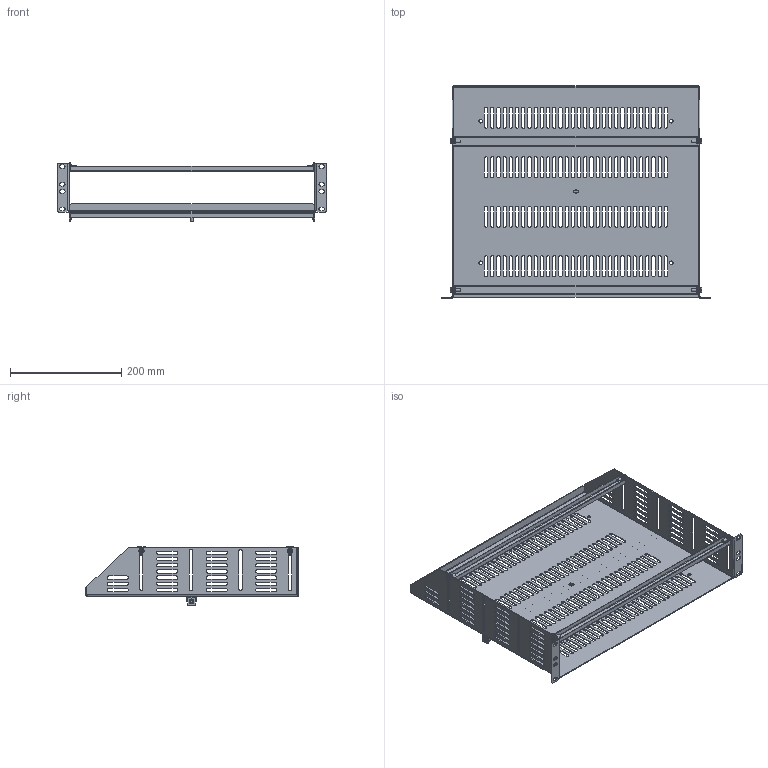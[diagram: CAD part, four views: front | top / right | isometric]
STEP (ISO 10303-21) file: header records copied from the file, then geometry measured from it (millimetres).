
FILE_DESCRIPTION( ( 'Unknown' ), '1' );
FILE_NAME( 'Q:/ACCESSORIES/SHELVES/RACS/WEB DRAWINGS/STEP/RACSV190315.stp', 'Unknown', ( 'Unknown' ), ( 'Unknown' ), 'PSStep 11.0', 'Unknown', ' ' );
FILE_SCHEMA( ( 'AUTOMOTIVE_DESIGN { 1 0 10303 214 1 1 1 1 }' ) );
Length unit declared in the file: millimetre
Products named in the file (10): COM56863; Assem1; NTS16847; NTS16847-oa3; SCS19498; SCS19498-oa0; SCS19498-oa1; SCS19498-oa2; COM56860-2
Bounding box: 482.75 x 381 x 104.98 mm (x, y, z)
Volume: 806724.1 mm3; surface area: 977159.3 mm2
Topology: 22 solids, 22 shells, 1972 faces, 5632 edges, 3728 vertices
Faces by surface type: plane 1068, cylinder 872, torus 16, cone 8, bspline 8
Full cylindrical faces by diameter (mm): 4.039 x8, 4.801 x8, 6.198 x8, 6.35 x16, 8.636 x8, 9.347 x16
Entity records: 33091 total; most frequent: CARTESIAN_POINT 5883, DIRECTION 5362, ORIENTED_EDGE 5316, EDGE_CURVE 2658, AXIS2_PLACEMENT_3D 1817, VERTEX_POINT 1778, LINE 1728, VECTOR 1728
